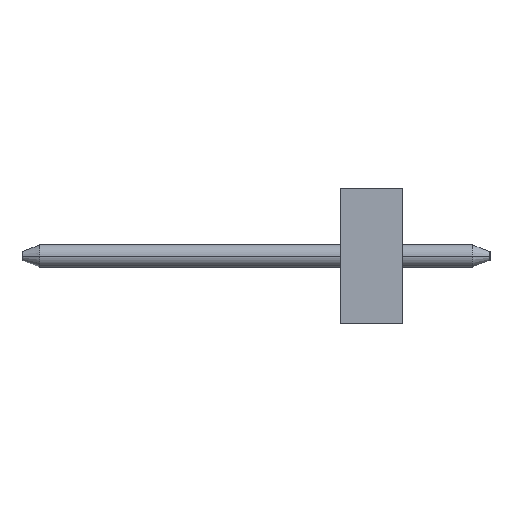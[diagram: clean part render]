
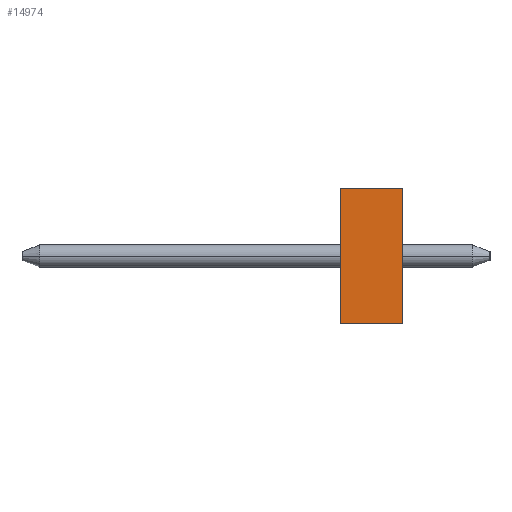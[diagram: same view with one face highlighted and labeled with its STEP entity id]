
A CAD part, left-side view. The second image highlights one B-rep face of the part: STEP entity #14974.
In plain terms, the highlighted planar face has unit normal (-1, 0, 0).
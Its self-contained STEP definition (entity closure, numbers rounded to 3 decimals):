
#521=DIRECTION('',(0.,-1.,0.));
#522=VECTOR('',#521,3.17);
#523=CARTESIAN_POINT('',(-31.7,1.585,-3.45));
#524=LINE('',#523,#522);
#587=DIRECTION('',(0.,-1.,0.));
#588=VECTOR('',#587,3.17);
#589=CARTESIAN_POINT('',(-31.7,1.585,3.45));
#590=LINE('',#589,#588);
#1227=DIRECTION('',(0.,0.,1.));
#1228=VECTOR('',#1227,6.9);
#1229=CARTESIAN_POINT('',(-31.7,-1.585,-3.45));
#1230=LINE('',#1229,#1228);
#4913=DIRECTION('',(0.,0.,1.));
#4914=VECTOR('',#4913,6.9);
#4915=CARTESIAN_POINT('',(-31.7,1.585,-3.45));
#4916=LINE('',#4915,#4914);
#6033=CARTESIAN_POINT('',(-31.7,1.585,-3.45));
#6034=CARTESIAN_POINT('',(-31.7,-1.585,-3.45));
#6035=VERTEX_POINT('',#6033);
#6036=VERTEX_POINT('',#6034);
#6041=CARTESIAN_POINT('',(-31.7,1.585,3.45));
#6042=CARTESIAN_POINT('',(-31.7,-1.585,3.45));
#6043=VERTEX_POINT('',#6041);
#6044=VERTEX_POINT('',#6042);
#14963=CARTESIAN_POINT('',(-31.7,1.585,-3.45));
#14964=DIRECTION('',(-1.,0.,0.));
#14965=DIRECTION('',(0.,-1.,0.));
#14966=AXIS2_PLACEMENT_3D('',#14963,#14964,#14965);
#14967=PLANE('',#14966);
#14968=ORIENTED_EDGE('',*,*,#8202,.F.);
#14969=ORIENTED_EDGE('',*,*,#9469,.T.);
#14970=ORIENTED_EDGE('',*,*,#8272,.T.);
#14971=ORIENTED_EDGE('',*,*,#8891,.F.);
#14972=EDGE_LOOP('',(#14968,#14969,#14970,#14971));
#14973=FACE_OUTER_BOUND('',#14972,.F.);
#14974=ADVANCED_FACE('',(#14973),#14967,.T.);
#8202=EDGE_CURVE('',#6035,#6036,#524,.T.);
#8272=EDGE_CURVE('',#6043,#6044,#590,.T.);
#8891=EDGE_CURVE('',#6036,#6044,#1230,.T.);
#9469=EDGE_CURVE('',#6035,#6043,#4916,.T.);
